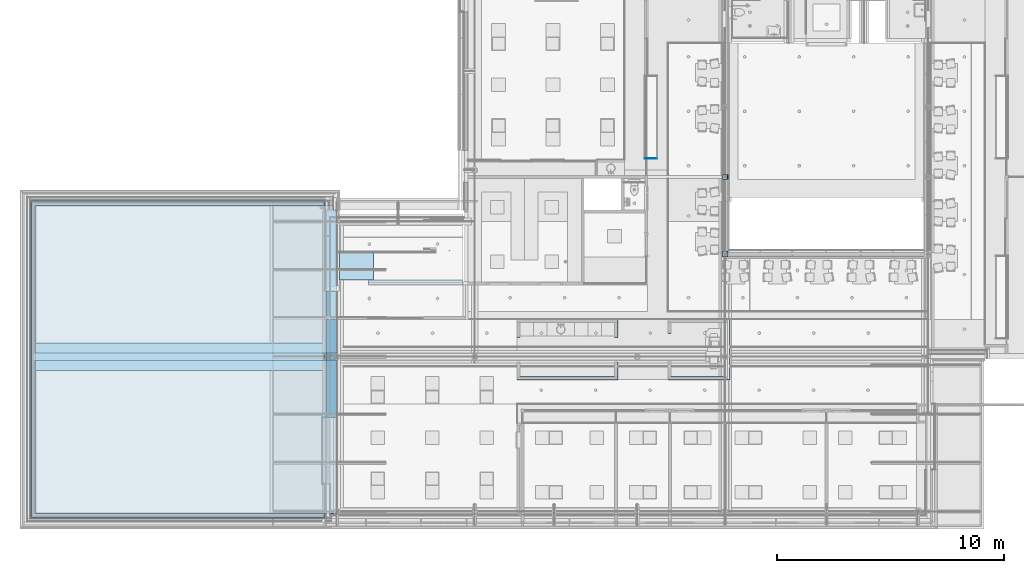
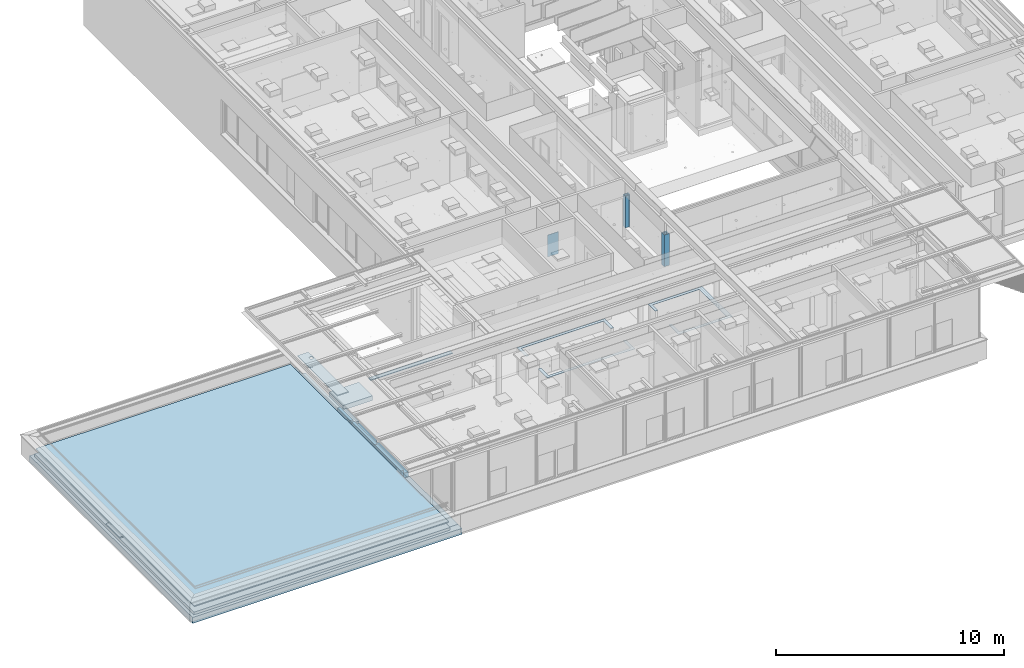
# One storey, part 19 of 260: 11 slabs, 9 plates.
"""IFC2X3 building model written with IfcOpenShell, lengths in millimetres."""

from ifc_helpers import new_model, entity, si_unit, converted_unit, derived_unit, money_unit, direction, frame, origin_with_axes, place, context, subcontext, project, spatial, faceted_brep, material, type_object, element, save


model = new_model("IFC2X3")

# Units and contexts
model_context = context("Model", 3, precision=0.01, world=origin_with_axes(), true_north=direction((0.0, 1.0)))
plan_context = context("Plan", 3, precision=0.01, world=origin_with_axes(), true_north=direction((0.0, 1.0)))
body_context = subcontext(model_context, "Body", "Model", "MODEL_VIEW")
ifc_project = project(units=[si_unit("LENGTHUNIT", "METRE", prefix="MILLI"), si_unit("AREAUNIT", "SQUARE_METRE"), si_unit("VOLUMEUNIT", "CUBIC_METRE"), converted_unit("PLANEANGLEUNIT", "DEGREE", entity("IfcPlaneAngleMeasure", 0.0174532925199), si_unit("PLANEANGLEUNIT", "RADIAN"), dimensions=[0, 0, 0, 0, 0, 0, 0]), money_unit("EUR"), converted_unit("TIMEUNIT", "Year", entity("IfcTimeMeasure", 31556926.0), si_unit("TIMEUNIT", "SECOND"), dimensions=[0, 0, 1, 0, 0, 0, 0]), si_unit("MASSUNIT", "GRAM", prefix="KILO"), si_unit("THERMODYNAMICTEMPERATUREUNIT", "DEGREE_CELSIUS"), si_unit("LUMINOUSINTENSITYUNIT", "LUMEN"), si_unit("ENERGYUNIT", "JOULE", prefix="MEGA"), derived_unit("THERMALCONDUCTANCEUNIT", [(si_unit("POWERUNIT", "WATT"), 1), (si_unit("LENGTHUNIT", "METRE"), -1), (si_unit("THERMODYNAMICTEMPERATUREUNIT", "KELVIN"), -1)]), derived_unit("SPECIFICHEATCAPACITYUNIT", [(si_unit("ENERGYUNIT", "JOULE"), 1), (si_unit("MASSUNIT", "GRAM", prefix="KILO"), -1), (si_unit("THERMODYNAMICTEMPERATUREUNIT", "KELVIN"), -1)]), derived_unit("MASSDENSITYUNIT", [(si_unit("MASSUNIT", "GRAM", prefix="KILO"), 1), (si_unit("VOLUMEUNIT", "CUBIC_METRE"), -1)])], contexts=[model_context, plan_context])

# Site, building, storey
site_placement = place(None, origin_with_axes())
site = spatial("IfcSite", under=ifc_project, at=site_placement, Name="Site", CompositionType="ELEMENT")
building_placement = place(site_placement, origin_with_axes())
building = spatial("IfcBuilding", under=site, at=building_placement, Name="Naam gebouw", CompositionType="ELEMENT")
storey_placement = place(building_placement, frame((0.0, 0.0, 3960.0), z_axis=(0.0, 0.0, 1.0), x_axis=(1.0, 0.0, 0.0)))
storey = spatial("IfcBuildingStorey", under=building, at=storey_placement, Name="verdieping", CompositionType="ELEMENT", Elevation=3960.0)

# Plate
ifc_material_1 = material(Name="Hout - Lockers")
plate_type_1 = type_object("IfcPlateType", Name="Hout - Lockers 1178", PredefinedType="SHEET")
plate_1_placement = place(storey_placement, frame((32075.0, 20843.5, 0.0), z_axis=(0.0, 0.0, 1.0), x_axis=(1.0, 0.0, 0.0)))
element("IfcPlate", 1, at=plate_1_placement, inside=storey, type_object=plate_type_1, material=ifc_material_1, Name="72_72 vaste inrichting", ObjectType="SHEET", context=body_context, shape_type="Brep", body=[
    faceted_brep([(0.0, 0.0, 1178.0), (0.0, 0.0, 0.0), (543.0, 0.0, 0.0), (543.0, 0.0, 1178.0), (22.0, 22.0, 1178.0), (22.0, 22.0, 0.0), (543.0, 22.0, 0.0), (543.0, 22.0, 1178.0)], [[[0, 1, 2, 3]], [[4, 5, 1, 0]], [[2, 1, 5, 6]], [[3, 2, 6, 7]], [[4, 0, 3, 7]], [[7, 6, 5, 4]]]),
])

# Slabs
ifc_material_2 = material(Name="Isolatie - Kunststof hard")
slab_type_1 = type_object("IfcSlabType", Name="Isolatie - Kunststof hard 140", PredefinedType="NOTDEFINED")
slab_1_placement = place(storey_placement, frame((4999.9999996, 5000.0, -80.0), z_axis=(0.0, 0.0, 1.0), x_axis=(1.0, 0.0, 0.0)))
element("IfcSlab", 2, at=slab_1_placement, inside=storey, type_object=slab_type_1, material=ifc_material_2, Name="23_dakisolatie", PredefinedType="NOTDEFINED", context=body_context, shape_type="Brep", body=[
    faceted_brep([(12983.0000004, 0.0, 140.0), (0.0, 0.0, 140.0), (0.0, 0.0, 0.0), (12983.0000004, 0.0, 0.0), (12983.0000004, 14000.0000004, 140.0), (0.0, 14000.0000004, 140.0), (0.0, 14000.0000004, 0.0), (12983.0000004, 14000.0000004, 0.0)], [[[0, 1, 2, 3]], [[4, 5, 1, 0]], [[1, 5, 6, 2]], [[7, 3, 2, 6]], [[4, 0, 3, 7]], [[5, 4, 7, 6]]]),
])
ifc_material_3 = material(Name="Beton gewapend C vloer")
slab_type_2 = type_object("IfcSlabType", Name="Beton gewapend C vloer 320", PredefinedType="NOTDEFINED")
slab_2_placement = place(storey_placement, frame((18355.0000259, 19150.0, -80.0), z_axis=(0.0, 0.0, 1.0), x_axis=(1.0, 0.0, 0.0)))
element("IfcSlab", 3, at=slab_2_placement, inside=storey, type_object=slab_type_2, material=ifc_material_3, Name="23_23 VBI 260 + druklaag", PredefinedType="NOTDEFINED", context=body_context, shape_type="Brep", body=[
    faceted_brep([(-13505.0000259, 0.0, 0.0), (0.0, 0.0, 0.0), (0.0, 0.0, -320.0), (-13505.0000259, 0.0, -320.0), (-13145.0000934, -359.999932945, 0.0), (7.86323361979e-05, -359.999932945, 0.0), (-13505.0000259, -14300.0000757, 0.0), (149.99997406, -14300.0000757, 0.0), (149.99997406, -13939.9999817, 0.0), (-13145.0000255, -13939.9980006, 0.0), (7.86323361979e-05, -359.999932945, -320.0), (-13505.0000259, -14300.0000757, -320.0), (-13145.0000934, -359.999932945, -320.0), (-13145.0000255, -13939.9980006, -320.0), (149.99997406, -13939.9999817, -320.0), (149.99997406, -14300.0000757, -320.0)], [[[0, 1, 2, 3]], [[4, 5, 1, 0, 6, 7, 8, 9]], [[1, 5, 10, 2]], [[11, 3, 2, 10, 12, 13, 14, 15]], [[6, 0, 3, 11]], [[5, 4, 12, 10]], [[7, 6, 11, 15]], [[8, 7, 15, 14]], [[9, 8, 14, 13]], [[4, 9, 13, 12]]]),
])
ifc_material_4 = material(Name="Beton gewapend prefab vloer")
slab_type_3 = type_object("IfcSlabType", Name="23 kanaalplaat + cmd 320-80 320", PredefinedType="NOTDEFINED")
slab_3_placement = place(storey_placement, frame((18355.0001046, 18790.0000671, -80.0), z_axis=(0.0, 0.0, 1.0), x_axis=(1.0, 0.0, 0.0)))
element("IfcSlab", 4, at=slab_3_placement, inside=storey, type_object=slab_type_3, material=ifc_material_4, Name="23_23 VBI 260 + druklaag", PredefinedType="NOTDEFINED", context=body_context, shape_type="Brep", body=[
    faceted_brep([(0.0, 0.0, -320.0), (-13145.0001041, 0.0, -320.0), (-13145.0001041, 0.0, 0.0), (0.0, 0.0, 0.0), (0.0, -195.000066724, -320.0), (149.290954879, -195.000066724, -320.0), (149.290954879, -3289.99998705, -320.0), (149.513709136, -6495.00006706, -320.0), (-13145.0001041, -6495.00006706, -320.0), (-13145.0001041, -6495.00006706, 0.0), (149.513709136, -6495.00006706, 0.0), (149.290954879, -3289.99998705, 0.0), (149.290954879, -195.000066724, 0.0), (0.0, -195.000066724, 0.0)], [[[0, 1, 2, 3]], [[0, 4, 5, 6, 7, 8, 1]], [[1, 8, 9, 2]], [[3, 2, 9, 10, 11, 12, 13]], [[4, 0, 3, 13]], [[5, 4, 13, 12]], [[6, 5, 12, 11]], [[7, 6, 11, 10]], [[8, 7, 10, 9]]]),
])
slab_4_placement = place(storey_placement, frame((5210.00000045, 5210.00001832, -80.0), z_axis=(0.0, 0.0, 1.0), x_axis=(1.0, 0.0, 0.0)))
element("IfcSlab", 5, at=slab_4_placement, inside=storey, type_object=slab_type_3, material=ifc_material_4, Name="23_23 VBI 260 + druklaag", PredefinedType="NOTDEFINED", context=body_context, shape_type="Brep", body=[
    faceted_brep([(0.0, 0.0, 0.0), (0.0, 0.0, -320.0), (13295.0063213, 0.0, -320.0), (13295.0063213, 0.0, 0.0), (0.0, 6744.99998168, 0.0), (0.0, 6744.99998168, -320.0), (13294.5374485, 6744.99998168, -320.0), (13294.5374485, 6744.99998168, 0.0)], [[[0, 1, 2, 3]], [[4, 5, 1, 0]], [[2, 1, 5, 6]], [[3, 2, 6, 7]], [[4, 0, 3, 7]], [[7, 6, 5, 4]]]),
])
ifc_material_5 = material(Name="Beton gewapend prefab")
slab_type_4 = type_object("IfcSlabType", Name="Beton gewapend prefab 250", PredefinedType="NOTDEFINED")
slab_5_placement = place(storey_placement, frame((18615.0, 15500.0, 0.0), z_axis=(0.0, 0.0, 1.0), x_axis=(1.0, 0.0, 0.0)))
element("IfcSlab", 6, at=slab_5_placement, inside=storey, type_object=slab_type_4, material=ifc_material_5, Name="23_23 VBI 260 + druklaag", PredefinedType="NOTDEFINED", context=body_context, shape_type="Brep", body=[
    faceted_brep([(0.0, 0.0, 0.0), (0.0, 0.0, -250.0), (1500.0, 0.0, -250.0), (1500.0, 0.0, 0.0), (0.0, 1200.0, 0.0), (0.0, 1200.0, -250.0), (1500.0, 1200.0, -250.0), (1500.0, 1200.0, 0.0)], [[[0, 1, 2, 3]], [[4, 5, 1, 0]], [[2, 1, 5, 6]], [[3, 2, 6, 7]], [[4, 0, 3, 7]], [[7, 6, 5, 4]]]),
])
ifc_material_6 = material(Name="Isolatie - Kunststof hard afschot")
slab_type_5 = type_object("IfcSlabType", Name="Isolatie - Kunststof hard afschot 60", PredefinedType="NOTDEFINED")
slab_6_placement = place(storey_placement, frame((4999.9999996, 11525.0, 60.0), z_axis=(0.0, 0.0, 1.0), x_axis=(1.0, 0.0, 0.0)))
element("IfcSlab", 7, at=slab_6_placement, inside=storey, type_object=slab_type_5, material=ifc_material_6, Name="23_dakisolatie", PredefinedType="NOTDEFINED", context=body_context, shape_type="Brep", body=[
    faceted_brep([(0.0, 0.0, 60.0), (0.0, 0.0, 0.0), (12983.0000004, 0.0, 0.0), (12983.0000004, 0.0, 60.0), (0.0, 1200.0, 60.0), (0.0, 1200.0, 0.0), (12983.0000004, 1200.0, 0.0), (12983.0000004, 1200.0, 60.0)], [[[0, 1, 2, 3]], [[4, 5, 1, 0]], [[2, 1, 5, 6]], [[3, 2, 6, 7]], [[4, 0, 3, 7]], [[7, 6, 5, 4]]]),
])
ifc_material_7 = material(Name="Beton C")
slab_type_6 = type_object("IfcSlabType", Name="Beton C 50", PredefinedType="NOTDEFINED")
slab_7_placement = place(storey_placement, frame((5049.9999996, 5050.00000315, 360.0), z_axis=(0.0, 0.0, 1.0), x_axis=(1.0, 0.0, 0.0)))
element("IfcSlab", 8, at=slab_7_placement, inside=storey, type_object=slab_type_6, material=ifc_material_7, Name="23_dakisolatie", PredefinedType="NOTDEFINED", context=body_context, shape_type="Brep", body=[
    faceted_brep([(0.0, 0.0, 0.0), (0.0, 0.0, -50.0), (12893.0000019, 0.0, -50.0), (12893.0000019, 0.0, 0.0), (0.0, 13899.9999973, 0.0), (0.0, 13899.9999973, -50.0), (12893.0000019, 13899.9999973, -50.0), (12893.0000019, 13899.9999973, 0.0)], [[[0, 1, 2, 3]], [[4, 5, 1, 0]], [[2, 1, 5, 6]], [[3, 2, 6, 7]], [[4, 0, 3, 7]], [[7, 6, 5, 4]]]),
])
ifc_material_8 = material(Name="Hout AFW")
slab_type_7 = type_object("IfcSlabType", Name="Hout AFW 360", PredefinedType="NOTDEFINED")
slab_8_placement = place(storey_placement, frame((18055.0, 13890.0000434, 360.0), z_axis=(0.0, 0.0, 1.0), x_axis=(1.0, 0.0, 0.0)))
element("IfcSlab", 9, at=slab_8_placement, inside=storey, type_object=slab_type_7, material=ifc_material_8, Name="23_23 VBI 260 + druklaag", PredefinedType="NOTDEFINED", context=body_context, shape_type="Brep", body=[
    faceted_brep([(0.0, 0.0, 0.0), (0.0, 0.0, -360.0), (150.000003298, 0.0, -360.0), (150.000003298, 0.0, 0.0), (0.0, 1130.0, 0.0), (0.0, 1130.0, -360.0), (150.000003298, 1130.0, -360.0), (150.000003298, 1130.0, 0.0)], [[[0, 1, 2, 3]], [[4, 5, 1, 0]], [[2, 1, 5, 6]], [[3, 2, 6, 7]], [[4, 0, 3, 7]], [[7, 6, 5, 4]]]),
])
slab_type_8 = type_object("IfcSlabType", Name="Hout AFW 180", PredefinedType="NOTDEFINED")
slab_9_placement = place(storey_placement, frame((18205.0, 13890.0, 180.0), z_axis=(0.0, 0.0, 1.0), x_axis=(1.0, 0.0, 0.0)))
element("IfcSlab", 10, at=slab_9_placement, inside=storey, type_object=slab_type_8, material=ifc_material_8, Name="23_23 VBI 260 + druklaag", PredefinedType="NOTDEFINED", context=body_context, shape_type="Brep", body=[
    faceted_brep([(0.0, 0.0, 0.0), (0.0, 0.0, -180.0), (300.0, 0.0, -180.0), (300.0, 0.0, 0.0), (0.0, 1130.00004345, 0.0), (0.0, 1130.00004345, -180.0), (300.0, 1130.00004345, -180.0), (300.0, 1130.00004345, 0.0)], [[[0, 1, 2, 3]], [[4, 5, 1, 0]], [[2, 1, 5, 6]], [[3, 2, 6, 7]], [[4, 0, 3, 7]], [[7, 6, 5, 4]]]),
])
slab_type_9 = type_object("IfcSlabType", Name="Hout AFW 440", PredefinedType="NOTDEFINED")
slab_10_placement = place(storey_placement, frame((18204.9999701, 13765.0000434, 360.0), z_axis=(0.0, 0.0, 1.0), x_axis=(1.0, 0.0, 0.0)))
element("IfcSlab", 11, at=slab_10_placement, inside=storey, type_object=slab_type_9, material=ifc_material_8, Name="23_23 VBI 260 + druklaag", PredefinedType="NOTDEFINED", context=body_context, shape_type="Brep", body=[
    faceted_brep([(-19.9998943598, -1997.50000977, 0.0), (-19.9998943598, -2017.50000977, 0.0), (-149.99989436, -2017.50000977, 0.0), (-149.999970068, -4315.00000977, 0.0), (0.0, -4315.00000977, 0.0), (0.0, 0.0, 0.0), (-149.999970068, 0.0, 0.0), (-149.99989436, -1997.50000977, 0.0), (-19.9998943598, -2017.50000977, -27.0), (-19.9998943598, -1997.50000977, -27.0), (-149.99989436, -2017.50000977, -27.0), (-149.99989436, -1997.50000977, -27.0), (-149.999970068, 0.0, -440.0), (-149.999970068, -4315.00000977, -440.0), (0.0, -4315.00000977, -440.0), (0.0, 0.0, -440.0)], [[[0, 1, 2, 3, 4, 5, 6, 7]], [[8, 1, 0, 9]], [[10, 2, 1, 8]], [[10, 11, 7, 6, 12, 13, 3, 2]], [[4, 3, 13, 14]], [[5, 4, 14, 15]], [[6, 5, 15, 12]], [[9, 0, 7, 11]], [[9, 11, 10, 8]], [[13, 12, 15, 14]]]),
])
slab_type_10 = type_object("IfcSlabType", Name="Hout AFW 260", PredefinedType="NOTDEFINED")
slab_11_placement = place(storey_placement, frame((18205.0, 9450.00003368, 180.0), z_axis=(0.0, 0.0, 1.0), x_axis=(1.0, 0.0, 0.0)))
element("IfcSlab", 12, at=slab_11_placement, inside=storey, type_object=slab_type_10, material=ifc_material_8, Name="23_23 VBI 260 + druklaag", PredefinedType="NOTDEFINED", context=body_context, shape_type="Brep", body=[
    faceted_brep([(204.421101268, 2751.2215946, 0.0), (223.778371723, 2770.57886506, 0.0), (246.957712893, 2785.14341042, 0.0), (250.0, 2786.20795273, 0.0), (250.0, 4315.00000977, 0.0), (0.0, 4315.00000977, 0.0), (0.0, 0.0, 0.0), (250.0, 0.0, 0.0), (250.0, 2563.79197992, 0.0), (246.957712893, 2564.85652222, 0.0), (223.778371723, 2579.42106759, 0.0), (204.421101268, 2598.77833805, 0.0), (189.856555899, 2621.95767922, 0.0), (180.815062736, 2647.79678215, 0.0), (177.75, 2674.99996632, 0.0), (180.815062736, 2702.2031505, 0.0), (189.856555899, 2728.04225343, 0.0), (223.778371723, 2770.57886506, -260.0), (204.421101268, 2751.2215946, -260.0), (246.957712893, 2785.14341042, -260.0), (250.0, 2786.20795273, -260.0), (250.0, 4315.00000977, -260.0), (0.0, 4315.00000977, -260.0), (0.0, 0.0, -260.0), (250.0, 0.0, -260.0), (250.0, 2563.79197992, -260.0), (246.957712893, 2564.85652222, -260.0), (223.778371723, 2579.42106759, -260.0), (204.421101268, 2598.77833805, -260.0), (189.856555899, 2621.95767922, -260.0), (180.815062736, 2647.79678215, -260.0), (177.75, 2674.99996632, -260.0), (180.815062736, 2702.2031505, -260.0), (189.856555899, 2728.04225343, -260.0)], [[[0, 1, 2, 3, 4, 5, 6, 7, 8, 9, 10, 11, 12, 13, 14, 15, 16]], [[17, 1, 0, 18]], [[19, 2, 1, 17]], [[19, 20, 3, 2]], [[4, 3, 20, 21]], [[5, 4, 21, 22]], [[6, 5, 22, 23]], [[7, 6, 23, 24]], [[24, 25, 8, 7]], [[26, 9, 8, 25]], [[27, 10, 9, 26]], [[28, 11, 10, 27]], [[29, 12, 11, 28]], [[30, 13, 12, 29]], [[31, 14, 13, 30]], [[32, 15, 14, 31]], [[33, 16, 15, 32]], [[18, 0, 16, 33]], [[27, 26, 25, 24, 23, 22, 21, 20, 19, 17, 18, 33, 32, 31, 30, 29, 28]]]),
])

# Plates
plate_type_2 = type_object("IfcPlateType", Name="Hout AFW 38", PredefinedType="SHEET")
plate_2_placement = place(storey_placement, frame((18055.0, 15020.0, 1000.0), z_axis=(0.0, 0.0, 1.0), x_axis=(1.0, 0.0, 0.0)))
element("IfcPlate", 13, at=plate_2_placement, inside=storey, type_object=plate_type_2, material=ifc_material_8, Name="72_73 vaste inrichting", ObjectType="SHEET", context=body_context, shape_type="Brep", body=[
    faceted_brep([(560.0, 3503.0, 0.0), (560.0, 0.0, 0.0), (0.0, 0.0, 0.0), (0.0, 3503.0, 0.0), (518.483291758, 2991.51670825, 0.0), (533.874560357, 3011.57500001, 0.0), (543.549916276, 3034.93337549, 0.0), (546.85, 3060.00000001, 0.0), (543.549916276, 3085.06662453, 0.0), (533.874560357, 3108.42500001, 0.0), (518.483291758, 3128.48329177, 0.0), (498.425, 3143.87456036, 0.0), (475.066624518, 3153.54991628, 0.0), (450.0, 3156.85000001, 0.0), (424.933375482, 3153.54991628, 0.0), (401.575, 3143.87456036, 0.0), (381.516708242, 3128.48329177, 0.0), (366.125439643, 3108.42500001, 0.0), (356.450083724, 3085.06662453, 0.0), (353.15, 3060.00000001, 0.0), (356.450083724, 3034.93337549, 0.0), (366.125439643, 3011.57500001, 0.0), (381.516708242, 2991.51670825, 0.0), (401.575, 2976.12543965, 0.0), (424.933375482, 2966.45008373, 0.0), (450.0, 2963.15000001, 0.0), (475.066624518, 2966.45008373, 0.0), (498.425, 2976.12543965, 0.0), (560.0, 3503.0, 38.0), (560.0, 0.0, 38.0), (0.0, 0.0, 38.0), (7.57080016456e-05, 2397.50004345, 20.0), (7.57080016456e-05, 2417.50004345, 20.0), (7.57080016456e-05, 2417.50004345, 38.0), (0.0, 3503.0, 38.0), (7.57080016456e-05, 2397.50004345, 38.0), (518.483291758, 2991.51670825, 38.0), (533.874560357, 3011.57500001, 38.0), (543.549916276, 3034.93337549, 38.0), (546.85, 3060.00000001, 38.0), (543.549916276, 3085.06662453, 38.0), (533.874560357, 3108.42500001, 38.0), (518.483291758, 3128.48329177, 38.0), (498.425, 3143.87456036, 38.0), (475.066624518, 3153.54991628, 38.0), (450.0, 3156.85000001, 38.0), (424.933375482, 3153.54991628, 38.0), (401.575, 3143.87456036, 38.0), (381.516708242, 3128.48329177, 38.0), (366.125439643, 3108.42500001, 38.0), (356.450083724, 3085.06662453, 38.0), (353.15, 3060.00000001, 38.0), (356.450083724, 3034.93337549, 38.0), (366.125439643, 3011.57500001, 38.0), (381.516708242, 2991.51670825, 38.0), (401.575, 2976.12543965, 38.0), (424.933375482, 2966.45008373, 38.0), (450.0, 2963.15000001, 38.0), (475.066624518, 2966.45008373, 38.0), (498.425, 2976.12543965, 38.0), (130.000075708, 2417.50004345, 38.0), (130.000075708, 2397.50004345, 38.0), (130.000075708, 2417.50004345, 20.0), (130.000075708, 2397.50004345, 20.0)], [[[0, 1, 2, 3], [4, 5, 6, 7, 8, 9, 10, 11, 12, 13, 14, 15, 16, 17, 18, 19, 20, 21, 22, 23, 24, 25, 26, 27]], [[28, 29, 1, 0]], [[29, 30, 2, 1]], [[31, 32, 33, 34, 3, 2, 30, 35]], [[34, 28, 0, 3]], [[4, 36, 37, 5]], [[5, 37, 38, 6]], [[6, 38, 39, 7]], [[7, 39, 40, 8]], [[8, 40, 41, 9]], [[9, 41, 42, 10]], [[10, 42, 43, 11]], [[11, 43, 44, 12]], [[12, 44, 45, 13]], [[13, 45, 46, 14]], [[14, 46, 47, 15]], [[15, 47, 48, 16]], [[16, 48, 49, 17]], [[17, 49, 50, 18]], [[18, 50, 51, 19]], [[19, 51, 52, 20]], [[20, 52, 53, 21]], [[21, 53, 54, 22]], [[22, 54, 55, 23]], [[23, 55, 56, 24]], [[24, 56, 57, 25]], [[25, 57, 58, 26]], [[26, 58, 59, 27]], [[27, 59, 36, 4]], [[60, 61, 35, 30, 29, 28, 34, 33], [42, 41, 40, 39, 38, 37, 36, 59, 58, 57, 56, 55, 54, 53, 52, 51, 50, 49, 48, 47, 46, 45, 44, 43]], [[62, 32, 31, 63]], [[62, 60, 33, 32]], [[31, 35, 61, 63]], [[63, 61, 60, 62]]]),
])
plate_3_placement = place(storey_placement, frame((19905.0, 15290.0, 1000.0), z_axis=(0.0, 0.0, 1.0), x_axis=(1.0, 0.0, 0.0)))
element("IfcPlate", 14, at=plate_3_placement, inside=storey, type_object=plate_type_2, material=ifc_material_8, Name="72_72 vaste inrichting", ObjectType="SHEET", context=body_context, shape_type="Brep", body=[
    faceted_brep([(0.0, 0.0, 38.0), (0.0, 0.0, 0.0), (4159.99997035, 0.0, 0.0), (4159.99997035, 0.0, 38.0), (0.0, 210.0, 38.0), (0.0, 210.0, 0.0), (4159.99997035, 210.0, 0.0), (4159.99997035, 210.0, 38.0)], [[[0, 1, 2, 3]], [[4, 5, 1, 0]], [[2, 1, 5, 6]], [[3, 2, 6, 7]], [[4, 0, 3, 7]], [[7, 6, 5, 4]]]),
])
ifc_material_9 = material(Name="ALG - LICHTE SCHEIDINGSWAND - master")
plate_type_3 = type_object("IfcPlateType", Name="ALG - LICHTE SCHEIDINGSWAND - master 1700", PredefinedType="SHEET")
plate_4_placement = place(storey_placement, frame((35695.0, 19950.0, 900.0), z_axis=(0.0, 0.0, 1.0), x_axis=(1.0, 0.0, 0.0)))
element("IfcPlate", 15, at=plate_4_placement, inside=storey, type_object=plate_type_3, material=ifc_material_9, Name="72_75 vaste inrichting", ObjectType="SHEET", context=body_context, shape_type="Brep", body=[
    faceted_brep([(0.0, 0.0, 1700.0), (0.0, 0.0, 0.0), (50.0, 0.0, 0.0), (50.0, 0.0, 1700.0), (0.0, 200.0, 1700.0), (0.0, 200.0, 0.0), (50.0, 200.0, 0.0), (50.0, 200.0, 1700.0)], [[[0, 1, 2, 3]], [[4, 5, 1, 0]], [[2, 1, 5, 6]], [[3, 2, 6, 7]], [[4, 0, 3, 7]], [[7, 6, 5, 4]]]),
])
plate_5_placement = place(storey_placement, frame((35495.0, 19955.0, 900.0), z_axis=(0.0, 0.0, 1.0), x_axis=(1.0, 0.0, 0.0)))
element("IfcPlate", 16, at=plate_5_placement, inside=storey, type_object=plate_type_3, material=ifc_material_9, Name="72_72 vaste inrichting", ObjectType="SHEET", context=body_context, shape_type="Brep", body=[
    faceted_brep([(200.000024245, 190.0, 0.0), (200.000024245, 0.0, 0.0), (0.0, 0.0, 0.0), (0.0, 190.0, 0.0), (35.0, 170.0, 0.0), (35.0, 20.0, 0.0), (185.0, 20.0, 0.0), (185.0, 170.0, 0.0), (200.000024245, 190.0, 1700.0), (200.000024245, 0.0, 1700.0), (0.0, 0.0, 1700.0), (0.0, 190.0, 1700.0), (35.0, 170.0, 1700.0), (35.0, 20.0, 1700.0), (185.0, 20.0, 1700.0), (185.0, 170.0, 1700.0)], [[[0, 1, 2, 3], [4, 5, 6, 7]], [[8, 9, 1, 0]], [[9, 10, 2, 1]], [[10, 11, 3, 2]], [[11, 8, 0, 3]], [[4, 12, 13, 5]], [[5, 13, 14, 6]], [[6, 14, 15, 7]], [[7, 15, 12, 4]], [[8, 11, 10, 9], [14, 13, 12, 15]]]),
])
plate_6_placement = place(storey_placement, frame((35744.9999265, 16524.9999672, 900.0), z_axis=(0.0, 0.0, 1.0), x_axis=(1.0, 0.0, 0.0)))
element("IfcPlate", 17, at=plate_6_placement, inside=storey, type_object=plate_type_3, material=ifc_material_9, Name="72_72 vaste inrichting", ObjectType="SHEET", context=body_context, shape_type="Brep", body=[
    faceted_brep([(-249.999926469, 250.0, 0.0), (0.0, 250.0, 0.0), (0.0, 0.0, 0.0), (-249.999926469, 0.0, 0.0), (-214.999926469, 185.000002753, 0.0), (-214.999926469, 35.0000027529, 0.0), (-64.9999264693, 35.0000027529, 0.0), (-64.9999264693, 185.000002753, 0.0), (-249.999926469, 250.0, 1700.0), (0.0, 250.0, 1700.0), (0.0, 0.0, 1700.0), (-249.999926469, 0.0, 1700.0), (-214.999926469, 185.000002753, 1700.0), (-214.999926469, 35.0000027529, 1700.0), (-64.9999264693, 35.0000027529, 1700.0), (-64.9999264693, 185.000002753, 1700.0)], [[[0, 1, 2, 3], [4, 5, 6, 7]], [[8, 9, 1, 0]], [[9, 10, 2, 1]], [[10, 11, 3, 2]], [[11, 8, 0, 3]], [[4, 12, 13, 5]], [[5, 13, 14, 6]], [[6, 14, 15, 7]], [[7, 15, 12, 4]], [[8, 11, 10, 9], [14, 13, 12, 15]]]),
])
ifc_material_10 = material(Name="42 vensterbank")
plate_type_4 = type_object("IfcPlateType", Name="42 vensterbank 15", PredefinedType="SHEET")
plate_7_placement = place(storey_placement, frame((26435.0, 12980.0000434, 1400.0), z_axis=(0.0, 0.0, 1.0), x_axis=(1.0, 0.0, 0.0)))
element("IfcPlate", 18, at=plate_7_placement, inside=storey, type_object=plate_type_4, material=ifc_material_10, Name="72_73 vaste inrichting", ObjectType="SHEET", context=body_context, shape_type="Brep", body=[
    faceted_brep([(0.0, 0.0, 15.0), (0.0, 0.0, 0.0), (145.0, 0.0, 0.0), (145.0, 0.0, 15.0), (0.0, 795.0, 15.0), (0.0, 795.0, 0.0), (4445.0, 795.0, 0.0), (4445.0, 0.0, 0.0), (4300.0, 0.0, 0.0), (4300.0, 650.0, 0.0), (145.0, 650.0, 0.0), (145.0, 650.0, 15.0), (4300.0, 650.0, 15.0), (4300.0, 0.0, 15.0), (4445.0, 0.0, 15.0), (4445.0, 795.0, 15.0)], [[[0, 1, 2, 3]], [[4, 5, 1, 0]], [[2, 1, 5, 6, 7, 8, 9, 10]], [[3, 2, 10, 11]], [[4, 0, 3, 11, 12, 13, 14, 15]], [[15, 6, 5, 4]], [[14, 7, 6, 15]], [[13, 8, 7, 14]], [[12, 9, 8, 13]], [[11, 10, 9, 12]]]),
])
plate_8_placement = place(storey_placement, frame((30880.0, 11899.9844172, 1400.0), z_axis=(0.0, 0.0, 1.0), x_axis=(1.0, 0.0, 0.0)))
element("IfcPlate", 19, at=plate_8_placement, inside=storey, type_object=plate_type_4, material=ifc_material_10, Name="72_73 vaste inrichting", ObjectType="SHEET", context=body_context, shape_type="Brep", body=[
    faceted_brep([(0.0, 0.0, 15.0), (0.0, 0.0, 0.0), (-145.0, 0.0, 0.0), (-145.0, 0.0, 15.0), (0.0, -795.0, 15.0), (0.0, -795.0, 0.0), (-4445.0, -795.0, 0.0), (-4445.0, 0.0, 0.0), (-4300.0, 0.0, 0.0), (-4300.0, -650.0, 0.0), (-145.0, -650.0, 0.0), (-145.0, -650.0, 15.0), (-4300.0, -650.0, 15.0), (-4300.0, 0.0, 15.0), (-4445.0, 0.0, 15.0), (-4445.0, -795.0, 15.0)], [[[0, 1, 2, 3]], [[4, 5, 1, 0]], [[2, 1, 5, 6, 7, 8, 9, 10]], [[3, 2, 10, 11]], [[4, 0, 3, 11, 12, 13, 14, 15]], [[15, 6, 5, 4]], [[14, 7, 6, 15]], [[13, 8, 7, 14]], [[12, 9, 8, 13]], [[11, 10, 9, 12]]]),
])
plate_9_placement = place(storey_placement, frame((35820.0, 13775.0000434, 1400.0), z_axis=(0.0, 0.0, 1.0), x_axis=(1.0, 0.0, 0.0)))
element("IfcPlate", 20, at=plate_9_placement, inside=storey, type_object=plate_type_4, material=ifc_material_10, Name="72_73 vaste inrichting", ObjectType="SHEET", context=body_context, shape_type="Brep", body=[
    faceted_brep([(-139.869904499, -1725.13013895, 15.0), (-122.984800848, -1703.12504345, 15.0), (-112.370380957, -1677.49956699, 15.0), (-108.75, -1650.00004345, 15.0), (-112.370380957, -1622.50051991, 15.0), (-122.984800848, -1596.87504345, 15.0), (-139.869904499, -1574.86994795, 15.0), (-161.875, -1557.9848443, 15.0), (-187.500476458, -1547.3704244, 15.0), (-215.0, -1543.75004345, 15.0), (-225.0, -1545.06656842, 15.0), (-225.0, -1754.93351847, 15.0), (-215.0, -1756.25004345, 15.0), (-187.500476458, -1752.62966249, 15.0), (-161.875, -1742.0152426, 15.0), (-122.984800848, -1703.12504345, 0.0), (-139.869904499, -1725.13013895, 0.0), (-112.370380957, -1677.49956699, 0.0), (-108.75, -1650.00004345, 0.0), (-112.370380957, -1622.50051991, 0.0), (-122.984800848, -1596.87504345, 0.0), (-139.869904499, -1574.86994795, 0.0), (-161.875, -1557.9848443, 0.0), (-187.500476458, -1547.3704244, 0.0), (-215.0, -1543.75004345, 0.0), (-225.0, -1545.06656842, 0.0), (-225.0, -1754.93351847, 0.0), (-215.0, -1756.25004345, 0.0), (-187.500476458, -1752.62966249, 0.0), (-161.875, -1742.0152426, 0.0)], [[[0, 1, 2, 3, 4, 5, 6, 7, 8, 9, 10, 11, 12, 13, 14]], [[15, 1, 0, 16]], [[17, 2, 1, 15]], [[18, 3, 2, 17]], [[19, 4, 3, 18]], [[20, 5, 4, 19]], [[21, 6, 5, 20]], [[22, 7, 6, 21]], [[23, 8, 7, 22]], [[24, 9, 8, 23]], [[25, 10, 9, 24]], [[25, 26, 11, 10]], [[27, 12, 11, 26]], [[28, 13, 12, 27]], [[29, 14, 13, 28]], [[16, 0, 14, 29]], [[28, 27, 26, 25, 24, 23, 22, 21, 20, 19, 18, 17, 15, 16, 29]]]),
    faceted_brep([(-119.421101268, -1573.77841517, 15.0), (-104.856555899, -1596.95775634, 15.0), (-95.8150627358, -1622.79685927, 15.0), (-92.75, -1650.00004345, 15.0), (-95.8150627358, -1677.20322762, 15.0), (-104.856555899, -1703.04233055, 15.0), (-119.421101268, -1726.22167172, 15.0), (-138.778371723, -1745.57894218, 15.0), (-161.957712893, -1760.14348755, 15.0), (-187.796815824, -1769.18498071, 15.0), (-215.0, -1772.25004345, 15.0), (-225.0, -1771.12331405, 15.0), (-225.0, -2525.0, 15.0), (-2590.03594958, -2525.0, 15.0), (-2590.03594958, -1814.98726427, 15.0), (-2735.03594958, -1814.98726427, 15.0), (-2735.03594958, -2670.0, 15.0), (0.0, -2670.0, 15.0), (0.0, 0.0, 15.0), (-2735.0, 0.0, 15.0), (-2735.0, -620.000043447, 15.0), (-2590.0, -620.000043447, 15.0), (-2590.0, -145.0, 15.0), (-225.0, -145.0, 15.0), (-225.0, -1528.87677285, 15.0), (-215.0, -1527.75004345, 15.0), (-187.796815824, -1530.81510618, 15.0), (-161.957712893, -1539.85659935, 15.0), (-138.778371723, -1554.42114472, 15.0), (-104.856555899, -1596.95775634, 0.0), (-119.421101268, -1573.77841517, 0.0), (-95.8150627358, -1622.79685927, 0.0), (-92.75, -1650.00004345, 0.0), (-95.8150627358, -1677.20322762, 0.0), (-104.856555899, -1703.04233055, 0.0), (-119.421101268, -1726.22167172, 0.0), (-138.778371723, -1745.57894218, 0.0), (-161.957712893, -1760.14348755, 0.0), (-187.796815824, -1769.18498071, 0.0), (-215.0, -1772.25004345, 0.0), (-225.0, -1771.12331405, 0.0), (-225.0, -2525.0, 0.0), (-2590.03594958, -2525.0, 0.0), (-2590.03594958, -1814.98726427, 0.0), (-2735.03594958, -1814.98726427, 0.0), (-2735.03594958, -2670.0, 0.0), (0.0, -2670.0, 0.0), (0.0, 0.0, 0.0), (-2735.0, 0.0, 0.0), (-2735.0, -620.000043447, 0.0), (-2590.0, -620.000043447, 0.0), (-2590.0, -145.0, 0.0), (-225.0, -145.0, 0.0), (-225.0, -1528.87677285, 0.0), (-215.0, -1527.75004345, 0.0), (-187.796815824, -1530.81510618, 0.0), (-161.957712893, -1539.85659935, 0.0), (-138.778371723, -1554.42114472, 0.0)], [[[0, 1, 2, 3, 4, 5, 6, 7, 8, 9, 10, 11, 12, 13, 14, 15, 16, 17, 18, 19, 20, 21, 22, 23, 24, 25, 26, 27, 28]], [[29, 1, 0, 30]], [[31, 2, 1, 29]], [[32, 3, 2, 31]], [[33, 4, 3, 32]], [[34, 5, 4, 33]], [[35, 6, 5, 34]], [[36, 7, 6, 35]], [[37, 8, 7, 36]], [[38, 9, 8, 37]], [[39, 10, 9, 38]], [[40, 11, 10, 39]], [[12, 11, 40, 41]], [[13, 12, 41, 42]], [[14, 13, 42, 43]], [[15, 14, 43, 44]], [[16, 15, 44, 45]], [[17, 16, 45, 46]], [[18, 17, 46, 47]], [[19, 18, 47, 48]], [[20, 19, 48, 49]], [[21, 20, 49, 50]], [[22, 21, 50, 51]], [[23, 22, 51, 52]], [[52, 53, 24, 23]], [[54, 25, 24, 53]], [[55, 26, 25, 54]], [[56, 27, 26, 55]], [[57, 28, 27, 56]], [[30, 0, 28, 57]], [[55, 54, 53, 52, 51, 50, 49, 48, 47, 46, 45, 44, 43, 42, 41, 40, 39, 38, 37, 36, 35, 34, 33, 32, 31, 29, 30, 57, 56]]]),
])

save(model, "model.ifc")
